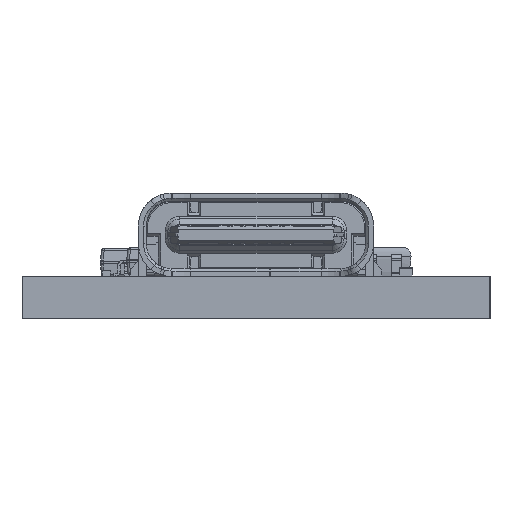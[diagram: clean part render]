
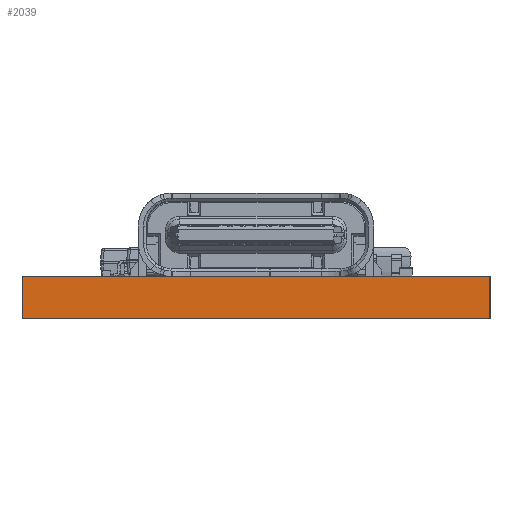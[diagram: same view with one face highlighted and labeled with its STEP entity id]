
A CAD part, left-side view. The second image highlights one B-rep face of the part: STEP entity #2039.
In plain terms, the highlighted planar face has unit normal (-1, 0, 0).
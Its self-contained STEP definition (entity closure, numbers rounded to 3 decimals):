
#32 = VERTEX_POINT('',#33);
#33 = CARTESIAN_POINT('',(0.,0.,0.));
#39 = EDGE_CURVE('',#40,#32,#42,.T.);
#40 = VERTEX_POINT('',#41);
#41 = CARTESIAN_POINT('',(0.,0.,-1.606));
#42 = LINE('',#43,#44);
#43 = CARTESIAN_POINT('',(0.,0.,-1.606));
#44 = VECTOR('',#45,1.);
#45 = DIRECTION('',(0.,0.,1.));
#2012 = EDGE_CURVE('',#2013,#2015,#2017,.T.);
#2013 = VERTEX_POINT('',#2014);
#2014 = CARTESIAN_POINT('',(0.,17.78,-1.606));
#2015 = VERTEX_POINT('',#2016);
#2016 = CARTESIAN_POINT('',(0.,17.78,0.));
#2017 = LINE('',#2018,#2019);
#2018 = CARTESIAN_POINT('',(0.,17.78,-1.606));
#2019 = VECTOR('',#2020,1.);
#2020 = DIRECTION('',(0.,0.,1.));
#2039 = ADVANCED_FACE('',(#2040),#2056,.T.);
#2040 = FACE_BOUND('',#2041,.T.);
#2041 = EDGE_LOOP('',(#2042,#2043,#2049,#2050));
#2042 = ORIENTED_EDGE('',*,*,#39,.T.);
#2043 = ORIENTED_EDGE('',*,*,#2044,.T.);
#2044 = EDGE_CURVE('',#32,#2015,#2045,.T.);
#2045 = LINE('',#2046,#2047);
#2046 = CARTESIAN_POINT('',(0.,0.,0.));
#2047 = VECTOR('',#2048,1.);
#2048 = DIRECTION('',(0.,1.,0.));
#2049 = ORIENTED_EDGE('',*,*,#2012,.F.);
#2050 = ORIENTED_EDGE('',*,*,#2051,.F.);
#2051 = EDGE_CURVE('',#40,#2013,#2052,.T.);
#2052 = LINE('',#2053,#2054);
#2053 = CARTESIAN_POINT('',(0.,0.,-1.606));
#2054 = VECTOR('',#2055,1.);
#2055 = DIRECTION('',(0.,1.,0.));
#2056 = PLANE('',#2057);
#2057 = AXIS2_PLACEMENT_3D('',#2058,#2059,#2060);
#2058 = CARTESIAN_POINT('',(0.,0.,-1.606));
#2059 = DIRECTION('',(-1.,0.,0.));
#2060 = DIRECTION('',(0.,1.,0.));
